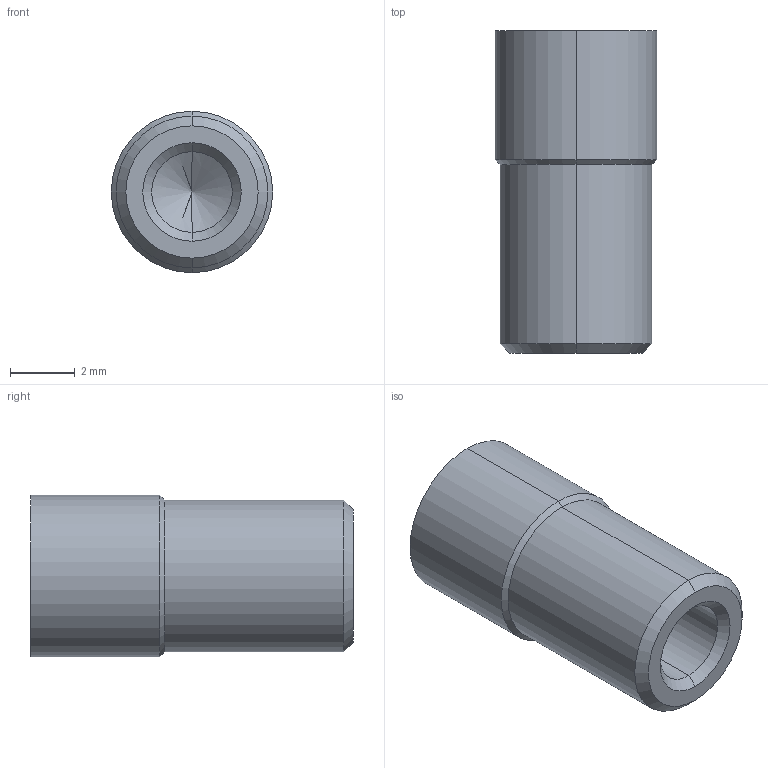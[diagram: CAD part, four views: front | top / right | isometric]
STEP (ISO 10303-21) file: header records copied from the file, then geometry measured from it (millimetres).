
FILE_DESCRIPTION (( 'STEP AP203' ), '1' );
FILE_NAME ('IR-5.STEP', '2016-04-08T14:54:16', ( 'Balzi' ), ( '' ), 'SwSTEP 2.0', 'SolidWorks 2015', '' );
FILE_SCHEMA (( 'CONFIG_CONTROL_DESIGN' ));
Length unit declared in the file: millimetre
Products named in the file (1): IR-5
Bounding box: 5 x 10 x 5 mm (x, y, z)
Volume: 144.4 mm3; surface area: 250.5 mm2
Topology: 1 solids, 1 shells, 25 faces, 50 edges, 29 vertices
Faces by surface type: cone 8, bspline 6, cylinder 6, plane 5
Entity records: 2307 total; most frequent: CARTESIAN_POINT 1749, ORIENTED_EDGE 96, DIRECTION 92, EDGE_CURVE 48, AXIS2_PLACEMENT_3D 36, VERTEX_POINT 29, EDGE_LOOP 29, FACE_OUTER_BOUND 25
